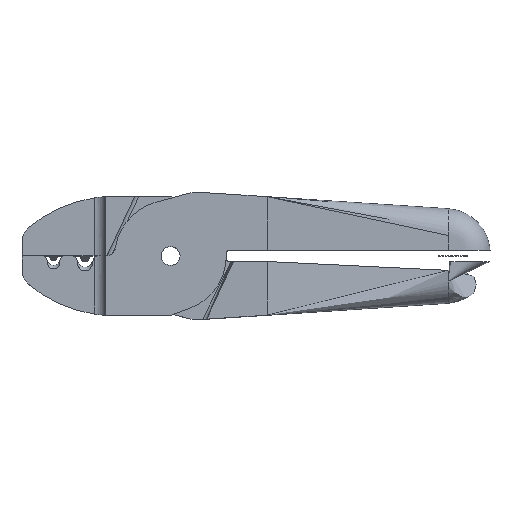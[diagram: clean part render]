
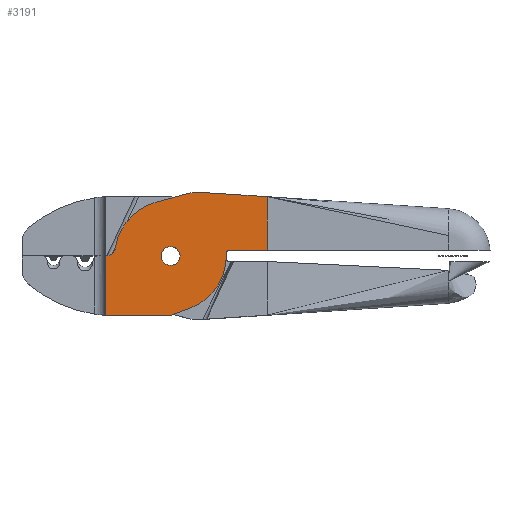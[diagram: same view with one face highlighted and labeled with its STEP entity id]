
A CAD part, top view. The second image highlights one B-rep face of the part: STEP entity #3191.
In plain terms, the highlighted planar face has unit normal (0, 0, 1).
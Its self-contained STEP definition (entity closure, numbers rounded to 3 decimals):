
#7 = VERTEX_POINT ( 'NONE', #3935 ) ;
#20 = VECTOR ( 'NONE', #4799, 1000. ) ;
#36 = CARTESIAN_POINT ( 'NONE',  ( 26., 1.5, 0. ) ) ;
#97 = VERTEX_POINT ( 'NONE', #1021 ) ;
#98 = AXIS2_PLACEMENT_3D ( 'NONE', #5427, #2476, #5920 ) ;
#131 = DIRECTION ( 'NONE',  ( -1., 0., 0. ) ) ;
#161 = EDGE_CURVE ( 'NONE', #188, #4586, #813, .T. ) ;
#178 = LINE ( 'NONE', #371, #20 ) ;
#188 = VERTEX_POINT ( 'NONE', #4381 ) ;
#192 = DIRECTION ( 'NONE',  ( -1., 0., 0. ) ) ;
#286 = VERTEX_POINT ( 'NONE', #1590 ) ;
#302 = DIRECTION ( 'NONE',  ( -1., 0., 0. ) ) ;
#328 = CIRCLE ( 'NONE', #3424, 2.5 ) ;
#347 = CARTESIAN_POINT ( 'NONE',  ( -0.103, -16., 0. ) ) ;
#371 = CARTESIAN_POINT ( 'NONE',  ( 26., 47., 0. ) ) ;
#385 = DIRECTION ( 'NONE',  ( 0.966, 0.259, 0. ) ) ;
#437 = ORIENTED_EDGE ( 'NONE', *, *, #846, .F. ) ;
#479 = VECTOR ( 'NONE', #385, 1000. ) ;
#645 = VECTOR ( 'NONE', #192, 1000. ) ;
#651 = CIRCLE ( 'NONE', #5012, 2.55 ) ;
#693 = ORIENTED_EDGE ( 'NONE', *, *, #2915, .F. ) ;
#720 = ORIENTED_EDGE ( 'NONE', *, *, #2465, .F. ) ;
#780 = ORIENTED_EDGE ( 'NONE', *, *, #3695, .F. ) ;
#813 = LINE ( 'NONE', #2960, #4412 ) ;
#846 = EDGE_CURVE ( 'NONE', #7, #1202, #1257, .T. ) ;
#975 = CARTESIAN_POINT ( 'NONE',  ( 5.489, 17., 0. ) ) ;
#1021 = CARTESIAN_POINT ( 'NONE',  ( -3.882, 14.489, 0. ) ) ;
#1023 = CARTESIAN_POINT ( 'NONE',  ( 23., -16., 0. ) ) ;
#1080 = VECTOR ( 'NONE', #2687, 1000. ) ;
#1083 = ORIENTED_EDGE ( 'NONE', *, *, #3118, .F. ) ;
#1156 = CARTESIAN_POINT ( 'NONE',  ( -15.505, -16., 0. ) ) ;
#1202 = VERTEX_POINT ( 'NONE', #347 ) ;
#1220 = LINE ( 'NONE', #1727, #1080 ) ;
#1257 = LINE ( 'NONE', #4070, #4869 ) ;
#1283 = PLANE ( 'NONE',  #6186 ) ;
#1372 = ORIENTED_EDGE ( 'NONE', *, *, #1419, .F. ) ;
#1419 = EDGE_CURVE ( 'NONE', #6214, #286, #5472, .T. ) ;
#1424 = DIRECTION ( 'NONE',  ( 0., 0., 1. ) ) ;
#1429 = ORIENTED_EDGE ( 'NONE', *, *, #2392, .F. ) ;
#1568 = DIRECTION ( 'NONE',  ( 1., 0., 0. ) ) ;
#1578 = ORIENTED_EDGE ( 'NONE', *, *, #2336, .F. ) ;
#1580 = EDGE_CURVE ( 'NONE', #1202, #4577, #4867, .T. ) ;
#1590 = CARTESIAN_POINT ( 'NONE',  ( 15., 0., 0. ) ) ;
#1614 = CARTESIAN_POINT ( 'NONE',  ( 0., 0., 0. ) ) ;
#1727 = CARTESIAN_POINT ( 'NONE',  ( 23., 0., 0. ) ) ;
#1756 = DIRECTION ( 'NONE',  ( 0., 0., -1. ) ) ;
#1810 = ORIENTED_EDGE ( 'NONE', *, *, #5804, .F. ) ;
#1831 = ORIENTED_EDGE ( 'NONE', *, *, #6008, .F. ) ;
#1970 = DIRECTION ( 'NONE',  ( -1., 0., 0. ) ) ;
#2006 = CIRCLE ( 'NONE', #3804, 2.55 ) ;
#2089 = DIRECTION ( 'NONE',  ( -1., 0., 0. ) ) ;
#2249 = CARTESIAN_POINT ( 'NONE',  ( 92.3, -22.3, 0. ) ) ;
#2257 = VERTEX_POINT ( 'NONE', #2988 ) ;
#2304 = VECTOR ( 'NONE', #1568, 1000. ) ;
#2336 = EDGE_CURVE ( 'NONE', #4180, #188, #4783, .T. ) ;
#2392 = EDGE_CURVE ( 'NONE', #2410, #6214, #3302, .T. ) ;
#2410 = VERTEX_POINT ( 'NONE', #5488 ) ;
#2417 = CARTESIAN_POINT ( 'NONE',  ( 15., 0.7, 0. ) ) ;
#2458 = FACE_BOUND ( 'NONE', #6058, .T. ) ;
#2465 = EDGE_CURVE ( 'NONE', #3306, #6255, #2006, .T. ) ;
#2476 = DIRECTION ( 'NONE',  ( 0., 0., -1. ) ) ;
#2487 = AXIS2_PLACEMENT_3D ( 'NONE', #5980, #3023, #131 ) ;
#2542 = CARTESIAN_POINT ( 'NONE',  ( -17.321, 2.5, 0. ) ) ;
#2550 = EDGE_CURVE ( 'NONE', #2257, #97, #4149, .T. ) ;
#2637 = CARTESIAN_POINT ( 'NONE',  ( -17.5, -15.943, 0. ) ) ;
#2687 = DIRECTION ( 'NONE',  ( 1., 0., 0. ) ) ;
#2742 = DIRECTION ( 'NONE',  ( -1., 0., 0. ) ) ;
#2760 = CIRCLE ( 'NONE', #4562, 15. ) ;
#2783 = ORIENTED_EDGE ( 'NONE', *, *, #6344, .F. ) ;
#2852 = VECTOR ( 'NONE', #5712, 1000. ) ;
#2915 = EDGE_CURVE ( 'NONE', #6255, #3306, #651, .T. ) ;
#2960 = CARTESIAN_POINT ( 'NONE',  ( 74.81, 12.736, 0. ) ) ;
#2988 = CARTESIAN_POINT ( 'NONE',  ( -14.846, 2.143, 0. ) ) ;
#3023 = DIRECTION ( 'NONE',  ( 0., 0., 1. ) ) ;
#3034 = DIRECTION ( 'NONE',  ( -1., 0., 0. ) ) ;
#3118 = EDGE_CURVE ( 'NONE', #286, #7, #2760, .T. ) ;
#3153 = CARTESIAN_POINT ( 'NONE',  ( -17.321, 0., 0. ) ) ;
#3191 = ADVANCED_FACE ( 'NONE', ( #2458, #6225 ), #1283, .F. ) ;
#3197 = DIRECTION ( 'NONE',  ( 0., 0., -1. ) ) ;
#3205 = LINE ( 'NONE', #6039, #645 ) ;
#3265 = LINE ( 'NONE', #4458, #5743 ) ;
#3285 = CARTESIAN_POINT ( 'NONE',  ( 5.489, 17., 0. ) ) ;
#3302 = CIRCLE ( 'NONE', #2487, 0.8 ) ;
#3306 = VERTEX_POINT ( 'NONE', #3802 ) ;
#3424 = AXIS2_PLACEMENT_3D ( 'NONE', #2542, #5992, #3034 ) ;
#3443 = VERTEX_POINT ( 'NONE', #36 ) ;
#3608 = CARTESIAN_POINT ( 'NONE',  ( 23., 17., 0. ) ) ;
#3654 = CIRCLE ( 'NONE', #3705, 35. ) ;
#3695 = EDGE_CURVE ( 'NONE', #3443, #2410, #3205, .T. ) ;
#3705 = AXIS2_PLACEMENT_3D ( 'NONE', #6145, #3197, #302 ) ;
#3802 = CARTESIAN_POINT ( 'NONE',  ( -2.55, 0., 0. ) ) ;
#3804 = AXIS2_PLACEMENT_3D ( 'NONE', #1614, #5039, #2089 ) ;
#3935 = CARTESIAN_POINT ( 'NONE',  ( 5.13, -14.095, 0. ) ) ;
#4060 = CARTESIAN_POINT ( 'NONE',  ( -17.5, 0., 0. ) ) ;
#4070 = CARTESIAN_POINT ( 'NONE',  ( -0.103, -16., 0. ) ) ;
#4149 = CIRCLE ( 'NONE', #98, 15. ) ;
#4180 = VERTEX_POINT ( 'NONE', #975 ) ;
#4201 = LINE ( 'NONE', #3285, #479 ) ;
#4260 = ORIENTED_EDGE ( 'NONE', *, *, #2550, .F. ) ;
#4355 = CARTESIAN_POINT ( 'NONE',  ( 0., 0., 0. ) ) ;
#4381 = CARTESIAN_POINT ( 'NONE',  ( 10., 17., 0. ) ) ;
#4403 = CARTESIAN_POINT ( 'NONE',  ( 2.55, 0., 0. ) ) ;
#4412 = VECTOR ( 'NONE', #4918, 1000. ) ;
#4458 = CARTESIAN_POINT ( 'NONE',  ( -17.5, 1.734, 0. ) ) ;
#4483 = EDGE_CURVE ( 'NONE', #4649, #2257, #328, .T. ) ;
#4538 = DIRECTION ( 'NONE',  ( -0.94, -0.342, 0. ) ) ;
#4562 = AXIS2_PLACEMENT_3D ( 'NONE', #4612, #1756, #5177 ) ;
#4572 = VERTEX_POINT ( 'NONE', #4060 ) ;
#4577 = VERTEX_POINT ( 'NONE', #1156 ) ;
#4586 = VERTEX_POINT ( 'NONE', #5565 ) ;
#4612 = CARTESIAN_POINT ( 'NONE',  ( 0., 0., 0. ) ) ;
#4649 = VERTEX_POINT ( 'NONE', #3153 ) ;
#4721 = ORIENTED_EDGE ( 'NONE', *, *, #161, .F. ) ;
#4783 = LINE ( 'NONE', #3608, #2304 ) ;
#4787 = ORIENTED_EDGE ( 'NONE', *, *, #4483, .F. ) ;
#4799 = DIRECTION ( 'NONE',  ( 0., -1., 0. ) ) ;
#4826 = ORIENTED_EDGE ( 'NONE', *, *, #5399, .F. ) ;
#4852 = DIRECTION ( 'NONE',  ( -1., 0., 0. ) ) ;
#4867 = LINE ( 'NONE', #1023, #6147 ) ;
#4869 = VECTOR ( 'NONE', #4538, 1000. ) ;
#4918 = DIRECTION ( 'NONE',  ( 0.998, -0.066, 0. ) ) ;
#5012 = AXIS2_PLACEMENT_3D ( 'NONE', #4355, #1424, #4852 ) ;
#5039 = DIRECTION ( 'NONE',  ( 0., 0., 1. ) ) ;
#5177 = DIRECTION ( 'NONE',  ( -1., 0., 0. ) ) ;
#5179 = VERTEX_POINT ( 'NONE', #2637 ) ;
#5399 = EDGE_CURVE ( 'NONE', #4586, #3443, #178, .T. ) ;
#5410 = DIRECTION ( 'NONE',  ( 0., 1., 0. ) ) ;
#5423 = ORIENTED_EDGE ( 'NONE', *, *, #1580, .F. ) ;
#5427 = CARTESIAN_POINT ( 'NONE',  ( 0., 0., 0. ) ) ;
#5439 = ORIENTED_EDGE ( 'NONE', *, *, #5889, .F. ) ;
#5472 = LINE ( 'NONE', #5922, #2852 ) ;
#5488 = CARTESIAN_POINT ( 'NONE',  ( 15.8, 1.5, 0. ) ) ;
#5565 = CARTESIAN_POINT ( 'NONE',  ( 26., 15.947, 0. ) ) ;
#5701 = DIRECTION ( 'NONE',  ( 0., 0., -1. ) ) ;
#5712 = DIRECTION ( 'NONE',  ( 0., -1., 0. ) ) ;
#5743 = VECTOR ( 'NONE', #5410, 1000. ) ;
#5804 = EDGE_CURVE ( 'NONE', #4572, #4649, #1220, .T. ) ;
#5861 = EDGE_LOOP ( 'NONE', ( #1810, #2783, #5439, #5423, #437, #1083, #1372, #1429, #780, #4826, #4721, #1578, #1831, #4260, #4787 ) ) ;
#5889 = EDGE_CURVE ( 'NONE', #4577, #5179, #3654, .T. ) ;
#5920 = DIRECTION ( 'NONE',  ( -1., 0., 0. ) ) ;
#5922 = CARTESIAN_POINT ( 'NONE',  ( 15., 0.35, 0. ) ) ;
#5980 = CARTESIAN_POINT ( 'NONE',  ( 15.8, 0.7, 0. ) ) ;
#5992 = DIRECTION ( 'NONE',  ( 0., 0., 1. ) ) ;
#6008 = EDGE_CURVE ( 'NONE', #97, #4180, #4201, .T. ) ;
#6039 = CARTESIAN_POINT ( 'NONE',  ( 23., 1.5, 0. ) ) ;
#6058 = EDGE_LOOP ( 'NONE', ( #720, #693 ) ) ;
#6145 = CARTESIAN_POINT ( 'NONE',  ( -15.505, 19., 0. ) ) ;
#6147 = VECTOR ( 'NONE', #1970, 1000. ) ;
#6186 = AXIS2_PLACEMENT_3D ( 'NONE', #2249, #5701, #2742 ) ;
#6214 = VERTEX_POINT ( 'NONE', #2417 ) ;
#6225 = FACE_OUTER_BOUND ( 'NONE', #5861, .T. ) ;
#6255 = VERTEX_POINT ( 'NONE', #4403 ) ;
#6344 = EDGE_CURVE ( 'NONE', #5179, #4572, #3265, .T. ) ;
